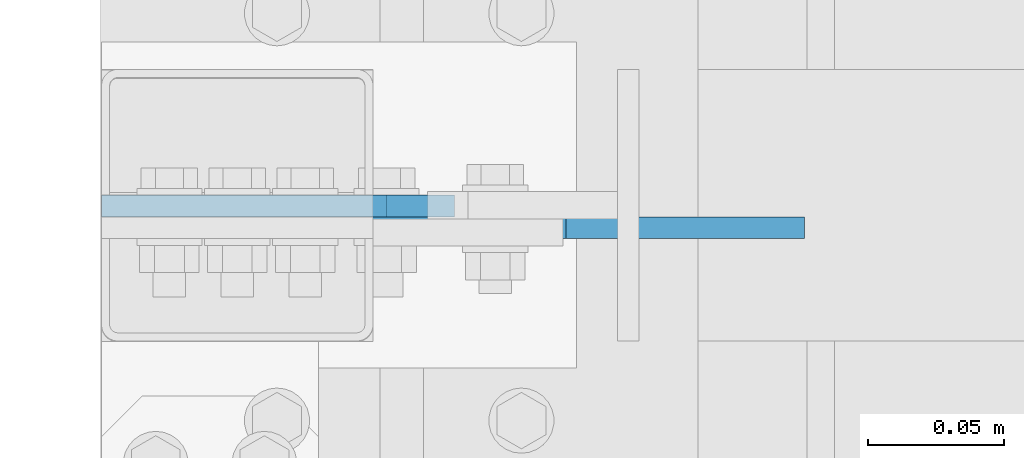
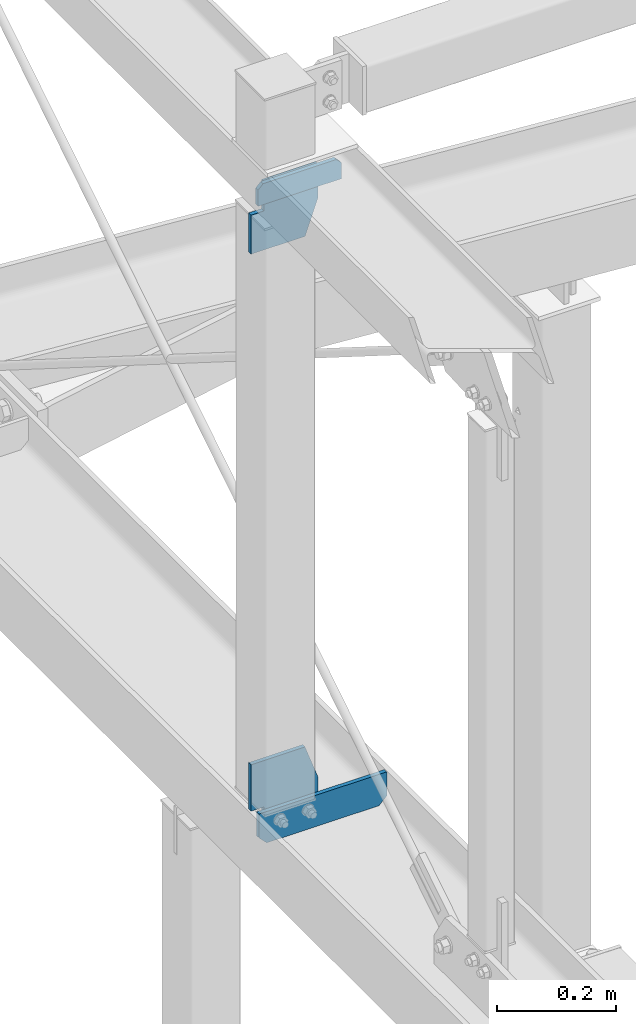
# One storey, part 109 of 271: 4 plates, 3 elements without a shape of their own.
"""IFC2X3 building model written with IfcOpenShell, lengths in millimetres."""

import ifcopenshell
import ifcopenshell.guid

model = None  # the IFC model being written
_history = None  # IfcOwnerHistory: only IFC2X3 demands one
_inside = {}  # id of a spatial element -> (the spatial element, [elements in it])
_under = {}  # id of a project, library or spatial element -> (it, [spatial elements below it])
_declared = {}  # id of a project -> (the project, [libraries it declares])
_typed = {}  # id of a type object -> (the type object, [elements of that type])
_made_of = {}  # id of a material, layer set ... -> (it, [elements and type objects made of it])


def new_model(schema):
    """Start an empty IFC model of exactly this schema.

    Asked for "IFC4X3", IfcOpenShell would pick the latest addendum, in which some entities
    have other attributes; the version numbers below select the first issue.
    IFC2X3 requires an IfcOwnerHistory on every rooted entity: one is made here for all.
    """
    global model, _history
    if schema == "IFC4X3":
        model = ifcopenshell.file(schema_version=(4, 3, 0, 0))
    else:
        model = ifcopenshell.file(schema=schema)
    _inside.clear()
    _under.clear()
    _declared.clear()
    _typed.clear()
    _made_of.clear()
    _history = None
    if model.schema == "IFC2X3":
        org = make("IfcOrganization", Name="unknown")
        user = make(
            "IfcPersonAndOrganization",
            ThePerson=make("IfcPerson", FamilyName="unknown"),
            TheOrganization=org,
        )
        app = make(
            "IfcApplication",
            ApplicationDeveloper=org,
            Version="unknown",
            ApplicationFullName="unknown",
            ApplicationIdentifier="unknown",
        )
        _history = make(
            "IfcOwnerHistory",
            OwningUser=user,
            OwningApplication=app,
            ChangeAction="ADDED",
            CreationDate=0,
        )
    return model


def make(cls, **values):
    """One entity of the class cls with the attributes given. An attribute that is None is left unset."""
    return model.create_entity(
        cls, **{name: value for name, value in values.items() if value is not None}
    )


def rooted(cls, **values):
    """An entity with a GlobalId (a new one), such as an element, a storey or a relation."""
    return make(cls, GlobalId=ifcopenshell.guid.new(), OwnerHistory=_history, **values)


def si_unit(unit_type, name, prefix=None):
    """IfcSIUnit, for example si_unit("LENGTHUNIT", "METRE", prefix="MILLI")."""
    return make("IfcSIUnit", UnitType=unit_type, Prefix=prefix, Name=name)


def assignment(units):
    """IfcUnitAssignment: the units of a project."""
    return None if units is None else make("IfcUnitAssignment", Units=units)


def point(xyz):
    """IfcCartesianPoint."""
    return None if xyz is None else make("IfcCartesianPoint", Coordinates=xyz)


def direction(xyz):
    """IfcDirection."""
    return None if xyz is None else make("IfcDirection", DirectionRatios=xyz)


def frame(location, z_axis=None, x_axis=None):
    """IfcAxis2Placement3D, a coordinate frame: its origin and axes. An axis left out is left unset."""
    return make(
        "IfcAxis2Placement3D",
        Location=point(location),
        Axis=direction(z_axis),
        RefDirection=direction(x_axis),
    )


def origin_with_axes():
    """The frame at (0, 0, 0) with the z axis (0, 0, 1) and the x axis (1, 0, 0) written out."""
    return frame((0.0, 0.0, 0.0), z_axis=(0.0, 0.0, 1.0), x_axis=(1.0, 0.0, 0.0))


def place(relative_to, where):
    """IfcLocalPlacement: puts the frame where relative to a parent placement (None: the world)."""
    return make(
        "IfcLocalPlacement", PlacementRelTo=relative_to, RelativePlacement=where
    )


def context(
    kind, dimensions, precision=None, world=None, true_north=None, identifier=None
):
    """IfcGeometricRepresentationContext, for example the 3D "Model" context."""
    return make(
        "IfcGeometricRepresentationContext",
        ContextIdentifier=identifier,
        ContextType=kind,
        CoordinateSpaceDimension=dimensions,
        Precision=precision,
        WorldCoordinateSystem=world,
        TrueNorth=true_north,
    )


def subcontext(parent, identifier, kind, view, scale=None):
    """IfcGeometricRepresentationSubContext, for example "Body" below "Model"."""
    return make(
        "IfcGeometricRepresentationSubContext",
        ContextIdentifier=identifier,
        ContextType=kind,
        ParentContext=parent,
        TargetScale=scale,
        TargetView=view,
    )


def project(units=None, contexts=None):
    """IfcProject with its units and contexts."""
    return rooted(
        "IfcProject",
        Name="project",
        RepresentationContexts=contexts,
        UnitsInContext=assignment(units),
    )


def spatial(cls, under=None, at=None, **own):
    """A site, building, storey or space (cls), placed at a placement, below another one or the project."""
    s = rooted(cls, ObjectPlacement=at, **own)
    if under is not None:
        _under.setdefault(under.id(), (under, []))[1].append(s)
    return s


def polyline(points):
    """IfcPolyline through the points."""
    return make("IfcPolyline", Points=[point(p) for p in points])


def outline(outer, holes=None, kind="AREA"):
    """IfcArbitraryClosedProfileDef: a profile drawn as a closed curve; with holes, ...WithVoids."""
    if holes is None:
        return make("IfcArbitraryClosedProfileDef", ProfileType=kind, OuterCurve=outer)
    return make(
        "IfcArbitraryProfileDefWithVoids",
        ProfileType=kind,
        OuterCurve=outer,
        InnerCurves=holes,
    )


def extrude(swept, where, along, depth):
    """IfcExtrudedAreaSolid: the profile swept, set in the frame where, extruded along a direction by depth."""
    return make(
        "IfcExtrudedAreaSolid",
        SweptArea=swept,
        Position=where,
        ExtrudedDirection=direction(along),
        Depth=depth,
    )


def shape(context_of_items, identifier, shape_type, items):
    """IfcShapeRepresentation: the items that make up one representation, for example the "Body"."""
    return make(
        "IfcShapeRepresentation",
        ContextOfItems=context_of_items,
        RepresentationIdentifier=identifier,
        RepresentationType=shape_type,
        Items=items,
    )


def material(Name=None, Category=None):
    """IfcMaterial."""
    return make("IfcMaterial", Name=Name, Category=Category)


def made_of(thing, what):
    """Note that an element or type object is made of a material, layer set ...; save() writes the relation."""
    if what is not None:
        _made_of.setdefault(what.id(), (what, []))[1].append(thing)
    return thing


def type_object(cls, material=None, **own):
    """A type object (cls), such as IfcWallType, which elements share."""
    return made_of(rooted(cls, **own), material)


def element(
    cls,
    number,
    at=None,
    inside=None,
    cuts=None,
    type_object=None,
    material=None,
    context=None,
    identifier="Body",
    shape_type=None,
    held_by="IfcProductDefinitionShape",
    body=None,
    shapes=None,
    **own,
):
    """One element of the class cls, such as IfcWall. Its Tag is "e" and its number.

    at: its placement. inside: the storey or other place that contains it. cuts: it is an
    opening in that element (IfcRelVoidsElement). A single representation is given by context,
    identifier, shape_type and body (its items); several are given by shapes. held_by: the class
    of the entity that holds the representations. save() writes the other relations.
    """
    e = rooted(cls, Tag="e%d" % number, ObjectPlacement=at, **own)
    if body is not None:
        shapes = [shape(context, identifier, shape_type, body)]
    if shapes is not None:
        e.Representation = make(held_by, Representations=shapes)
    if inside is not None:
        _inside.setdefault(inside.id(), (inside, []))[1].append(e)
    if cuts is not None:
        rooted(
            "IfcRelVoidsElement", RelatingBuildingElement=cuts, RelatedOpeningElement=e
        )
    if type_object is not None:
        _typed.setdefault(type_object.id(), (type_object, []))[1].append(e)
    return made_of(e, material)


def aggregate(whole, parts):
    """IfcRelAggregates: a whole, such as a stair, and the parts it consists of."""
    return rooted("IfcRelAggregates", RelatingObject=whole, RelatedObjects=parts)


def save(model, path):
    """Write the relations noted so far, then the file.

    IfcRelAggregates (storeys below a building ...), IfcRelContainedInSpatialStructure (elements
    in a storey), IfcRelDefinesByType, IfcRelAssociatesMaterial and IfcRelDeclares: one each for
    every whole, place, type object, material and project.
    """
    for whole, parts in _under.values():
        aggregate(whole, parts)
    for where, things in _inside.values():
        rooted(
            "IfcRelContainedInSpatialStructure",
            RelatedElements=things,
            RelatingStructure=where,
        )
    for kind, things in _typed.values():
        rooted("IfcRelDefinesByType", RelatedObjects=things, RelatingType=kind)
    for what, things in _made_of.values():
        rooted("IfcRelAssociatesMaterial", RelatedObjects=things, RelatingMaterial=what)
    for by, libraries in _declared.values():
        rooted("IfcRelDeclares", RelatingContext=by, RelatedDefinitions=libraries)
    model.write(path)


model = new_model("IFC2X3")

# Units and contexts
model_context = context("Model", 3, precision=1e-05, world=origin_with_axes())
body_context = subcontext(model_context, "Body", "Model", "MODEL_VIEW")
ifc_project = project(units=[si_unit("LENGTHUNIT", "METRE", prefix="MILLI"), si_unit("AREAUNIT", "SQUARE_METRE"), si_unit("VOLUMEUNIT", "CUBIC_METRE"), si_unit("MASSUNIT", "GRAM", prefix="KILO"), si_unit("TIMEUNIT", "SECOND"), si_unit("PLANEANGLEUNIT", "RADIAN"), si_unit("SOLIDANGLEUNIT", "STERADIAN"), si_unit("THERMODYNAMICTEMPERATUREUNIT", "DEGREE_CELSIUS"), si_unit("LUMINOUSINTENSITYUNIT", "LUMEN")], contexts=[model_context])

# Site, building, storey
site_placement = place(None, origin_with_axes())
site = spatial("IfcSite", under=ifc_project, at=site_placement, Name="Undefined", CompositionType="ELEMENT")
building_placement = place(site_placement, origin_with_axes())
building = spatial("IfcBuilding", under=site, at=building_placement, Name="Undefined", CompositionType="ELEMENT")
storey_placement = place(building_placement, origin_with_axes())
storey = spatial("IfcBuildingStorey", under=building, at=storey_placement, Name="Undefined", CompositionType="ELEMENT", Elevation=0.0)

# Assembly, plates
assembly_1_placement = place(storey_placement, origin_with_axes())
assembly_1 = element("IfcElementAssembly", 1, at=assembly_1_placement, inside=storey, AssemblyPlace="NOTDEFINED", PredefinedType="RIGID_FRAME")
ifc_material = material(Name="STEEL/S355JR")
plate_type_1 = type_object("IfcPlateType", Name="BL8*130", PredefinedType="NOTDEFINED")
plate_1_placement = place(assembly_1_placement, frame((118.375687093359, 2799.05225536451, 19858.8499999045), z_axis=(0.0, -1.0, 0.0), x_axis=(0.0, 0.0, 1.0)))
plate_1 = element("IfcPlate", 2, at=plate_1_placement, type_object=plate_type_1, material=ifc_material, Name="BLACHA", ObjectType="BL8*130", context=body_context, shape_type="SweptSolid", body=[
    extrude(outline(polyline([(0.0, 25.0), (70.0, -8.66862137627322e-13), (140.0, -1.81543668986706e-12), (140.0, 105.0), (80.0, 105.0), (80.0, 130.0), (-3.5527136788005e-14, 130.0), (0.0, 25.0)])), frame((0.0, 0.0, -4.0), z_axis=(0.0, 0.0, 1.0), x_axis=(1.0, 0.0, 0.0)), (0.0, 0.0, 1.0), 8.0),
])
plate_2_placement = place(assembly_1_placement, frame((118.375687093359, 2799.05211980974, 18811.8499999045), z_axis=(0.0, 1.0, 0.0), x_axis=(0.0, 0.0, -1.0)))
plate_2 = element("IfcPlate", 3, at=plate_2_placement, type_object=plate_type_1, material=ifc_material, Name="BLACHA", ObjectType="BL8*130", context=body_context, shape_type="SweptSolid", body=[
    extrude(outline(polyline([(0.0, 25.0), (70.0, -8.66862137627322e-13), (155.0, -2.06057393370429e-12), (155.0, 105.0), (94.9999999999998, 105.0), (94.9999999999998, 130.0), (-3.5527136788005e-14, 130.0), (0.0, 25.0)])), frame((0.0, 0.0, -4.0), z_axis=(0.0, 0.0, 1.0), x_axis=(1.0, 0.0, 0.0)), (0.0, 0.0, 1.0), 8.0),
])
aggregate(assembly_1, [plate_1, plate_2])

# Assembly, plate
assembly_2_placement = place(storey_placement, origin_with_axes())
assembly_2 = element("IfcElementAssembly", 4, at=assembly_2_placement, inside=storey, AssemblyPlace="NOTDEFINED", PredefinedType="RIGID_FRAME")
plate_type_2 = type_object("IfcPlateType", Name="BL8*43", PredefinedType="NOTDEFINED")
plate_3_placement = place(assembly_2_placement, frame((-2.62431290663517, 2791.05211980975, 19958.8499999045), z_axis=(0.0, 1.0, 0.0), x_axis=(0.0, 0.0, 1.0)))
plate_3 = element("IfcPlate", 5, at=plate_3_placement, type_object=plate_type_2, material=ifc_material, Name="BLACHA", ObjectType="BL8*43", context=body_context, shape_type="SweptSolid", body=[
    extrude(outline(polyline([(0.0, 0.0), (32.8499984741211, 0.0), (42.8499984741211, 10.0), (42.8499984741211, 152.0), (32.8499984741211, 162.0), (0.0, 162.0), (0.0, 0.0)])), frame((0.0, 0.0, -4.0), z_axis=(0.0, 0.0, 1.0), x_axis=(1.0, 0.0, 0.0)), (0.0, 0.0, 1.0), 8.0),
])
aggregate(assembly_2, [plate_3])

assembly_3_placement = place(storey_placement, origin_with_axes())
assembly_3 = element("IfcElementAssembly", 6, at=assembly_3_placement, inside=storey, AssemblyPlace="NOTDEFINED", PredefinedType="RIGID_FRAME")
plate_type_3 = type_object("IfcPlateType", Name="BL8*64", PredefinedType="NOTDEFINED")
plate_4_placement = place(assembly_3_placement, frame((-0.42431309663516, 2791.05211980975, 18647.649999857), z_axis=(0.0, 1.0, 0.0), x_axis=(0.0, 0.0, 1.0)))
plate_4 = element("IfcPlate", 7, at=plate_4_placement, type_object=plate_type_3, material=ifc_material, Name="BLACHA", ObjectType="BL8*64", context=body_context, shape_type="SweptSolid", body=[
    extrude(outline(polyline([(0.0, 15.0), (15.0, -1.59872115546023e-14), (64.1999969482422, -1.77635683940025e-14), (64.1999969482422, 247.600006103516), (15.0, 247.600006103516), (0.0, 232.600006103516), (0.0, 15.0)])), frame((0.0, 0.0, -4.0), z_axis=(0.0, 0.0, 1.0), x_axis=(1.0, 0.0, 0.0)), (0.0, 0.0, 1.0), 8.0),
])
aggregate(assembly_3, [plate_4])

save(model, "model.ifc")
